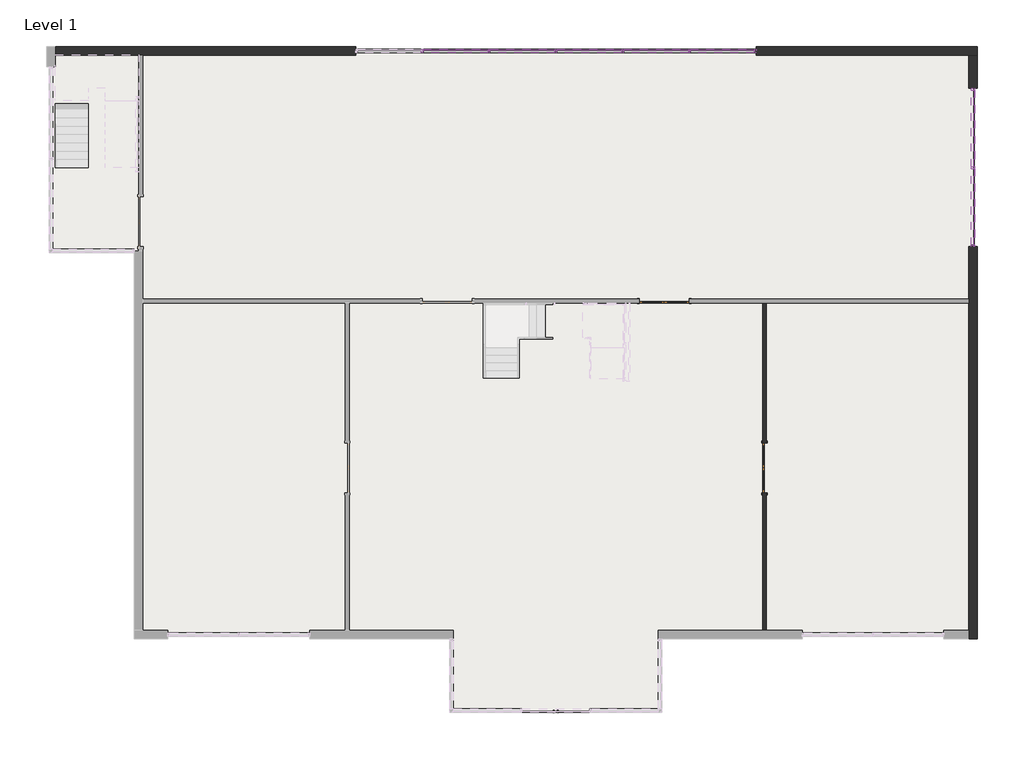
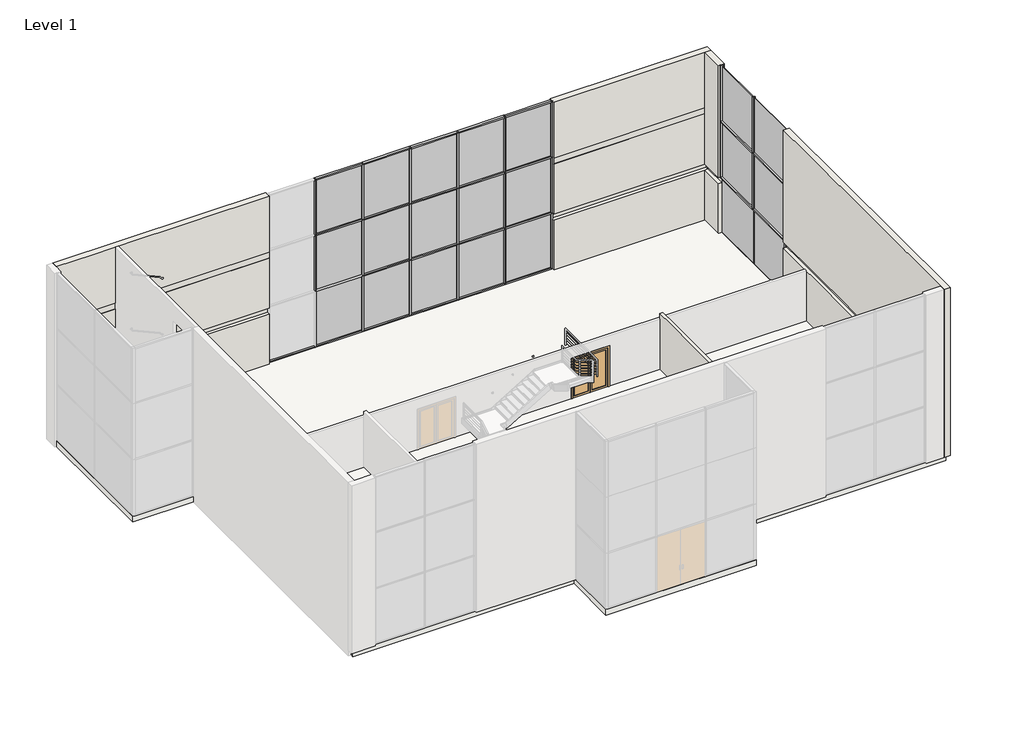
# One storey, part 3 of 7: 47 members, 21 plates, 3 walls, 2 doors, 1 slab.
"""IFC4 building model written with IfcOpenShell, lengths in millimetres."""

from ifc_helpers import new_model, si_unit, origin, place, context, project, spatial, faceted_brep, transform, mapped, element, save
from components import door_3f2f997e, member_eaba9652, member_3f395ae9, member_3b4a0b45, member_11459e8a, member_2d95a7ea, member_6c7b7f5c, member_ca91947d, system_panel_glazed_56108ee3, system_panel_glazed_d3fe5688, system_panel_glazed_d08b41f0, system_panel_glazed_c811d781, system_panel_glazed_ece86c27, system_panel_glazed_48a96432

model = new_model("IFC4")

# Units and contexts
model_context = context("Model", 3, world=origin())
ifc_project = project(units=[si_unit("LENGTHUNIT", "METRE", prefix="MILLI")], contexts=[model_context])

# Site, building, storey
site = spatial("IfcSite", under=ifc_project)
building = spatial("IfcBuilding", under=site)
storey = spatial("IfcBuildingStorey", under=building, Name="Level 1", Elevation=0.0)

# Doors
placement = place(None, origin())
door_shape = door_3f2f997e(model_context)
element("IfcDoor", 1, ObjectType="Door-Double-Glass : 72\" x 84\"", at=placement, inside=storey, context=model_context, shape_type="MappedRepresentation", body=[
    mapped(door_shape, transform((4533.463868, 513.5983604, 0.0), x_axis=(0.0, 1.0, 0.0), y_axis=(-1.0, 0.0, 0.0), z_axis=(0.0, 0.0, 1.0))),
])
element("IfcDoor", 2, ObjectType="Door-Double-Glass : 72\" x 84\"", at=placement, inside=storey, context=model_context, shape_type="MappedRepresentation", body=[
    mapped(door_shape, transform((873.482618, 6611.9796104, 0.0), x_axis=(-1.0, 0.0, 0.0), y_axis=(0.0, -1.0, 0.0), z_axis=(0.0, 0.0, 1.0))),
])

# Members
member_shape = member_eaba9652(model_context)
element("IfcMember", 3, ObjectType="Rectangular Mullion : 2.5\" x 5\" rectangular", at=placement, inside=storey, context=model_context, shape_type="MappedRepresentation", body=[
    mapped(member_shape, transform((1787.8826178, 15753.5983604, 0.0), x_axis=(-1.0, 0.0, 0.0), y_axis=(0.0, 1.0, 0.0), z_axis=(0.0, 0.0, -1.0))),
])
element("IfcMember", 4, ObjectType="Rectangular Mullion : 2.5\" x 5\" rectangular", at=placement, inside=storey, context=model_context, shape_type="MappedRepresentation", body=[
    mapped(member_shape, transform((-650.5173821, 15753.5983604, 0.0), x_axis=(-1.0, 0.0, 0.0), y_axis=(0.0, 1.0, 0.0), z_axis=(0.0, 0.0, -1.0))),
])
element("IfcMember", 5, ObjectType="Rectangular Mullion : 2.5\" x 5\" rectangular", at=placement, inside=storey, context=model_context, shape_type="MappedRepresentation", body=[
    mapped(member_shape, transform((-3088.917382, 15753.5983604, 0.0), x_axis=(-1.0, 0.0, 0.0), y_axis=(0.0, 1.0, 0.0), z_axis=(0.0, 0.0, -1.0))),
])
element("IfcMember", 6, ObjectType="Rectangular Mullion : 2.5\" x 5\" rectangular", at=placement, inside=storey, context=model_context, shape_type="MappedRepresentation", body=[
    mapped(member_shape, transform((-5527.3173819, 15753.5983604, 0.0), x_axis=(-1.0, 0.0, 0.0), y_axis=(0.0, 1.0, 0.0), z_axis=(0.0, 0.0, -1.0))),
])
element("IfcMember", 7, ObjectType="Rectangular Mullion : 2.5\" x 5\" rectangular", at=placement, inside=storey, context=model_context, shape_type="MappedRepresentation", body=[
    mapped(member_shape, transform((1787.8826178, 15753.5983604, 3048.0), x_axis=(-1.0, 0.0, 0.0), y_axis=(0.0, 1.0, 0.0), z_axis=(0.0, 0.0, -1.0))),
])
element("IfcMember", 8, ObjectType="Rectangular Mullion : 2.5\" x 5\" rectangular", at=placement, inside=storey, context=model_context, shape_type="MappedRepresentation", body=[
    mapped(member_shape, transform((-650.5173821, 15753.5983604, 3048.0), x_axis=(-1.0, 0.0, 0.0), y_axis=(0.0, 1.0, 0.0), z_axis=(0.0, 0.0, -1.0))),
])
element("IfcMember", 9, ObjectType="Rectangular Mullion : 2.5\" x 5\" rectangular", at=placement, inside=storey, context=model_context, shape_type="MappedRepresentation", body=[
    mapped(member_shape, transform((-3088.917382, 15753.5983604, 3048.0), x_axis=(-1.0, 0.0, 0.0), y_axis=(0.0, 1.0, 0.0), z_axis=(0.0, 0.0, -1.0))),
])
element("IfcMember", 10, ObjectType="Rectangular Mullion : 2.5\" x 5\" rectangular", at=placement, inside=storey, context=model_context, shape_type="MappedRepresentation", body=[
    mapped(member_shape, transform((-5527.3173819, 15753.5983604, 3048.0), x_axis=(-1.0, 0.0, 0.0), y_axis=(0.0, 1.0, 0.0), z_axis=(0.0, 0.0, -1.0))),
])
element("IfcMember", 11, ObjectType="Rectangular Mullion : 2.5\" x 5\" rectangular", at=placement, inside=storey, context=model_context, shape_type="MappedRepresentation", body=[
    mapped(member_shape, transform((-7965.7173818, 15753.5983604, 3048.0), x_axis=(-1.0, 0.0, 0.0), y_axis=(0.0, 1.0, 0.0), z_axis=(0.0, 0.0, -1.0))),
])
element("IfcMember", 12, ObjectType="Rectangular Mullion : 2.5\" x 5\" rectangular", at=placement, inside=storey, context=model_context, shape_type="MappedRepresentation", body=[
    mapped(member_shape, transform((12151.082618, 11486.3983604, 3048.0), x_axis=(0.0, 1.0, 0.0), y_axis=(1.0, 0.0, 0.0), z_axis=(0.0, 0.0, -1.0))),
])
element("IfcMember", 13, ObjectType="Rectangular Mullion : 2.5\" x 5\" rectangular", at=placement, inside=storey, context=model_context, shape_type="MappedRepresentation", body=[
    mapped(member_shape, transform((1787.8826178, 15753.5983604, 6096.0), x_axis=(-1.0, 0.0, 0.0), y_axis=(0.0, 1.0, 0.0), z_axis=(0.0, 0.0, -1.0))),
])
element("IfcMember", 14, ObjectType="Rectangular Mullion : 2.5\" x 5\" rectangular", at=placement, inside=storey, context=model_context, shape_type="MappedRepresentation", body=[
    mapped(member_shape, transform((-650.5173821, 15753.5983604, 6096.0), x_axis=(-1.0, 0.0, 0.0), y_axis=(0.0, 1.0, 0.0), z_axis=(0.0, 0.0, -1.0))),
])
element("IfcMember", 15, ObjectType="Rectangular Mullion : 2.5\" x 5\" rectangular", at=placement, inside=storey, context=model_context, shape_type="MappedRepresentation", body=[
    mapped(member_shape, transform((-3088.917382, 15753.5983604, 6096.0), x_axis=(-1.0, 0.0, 0.0), y_axis=(0.0, 1.0, 0.0), z_axis=(0.0, 0.0, -1.0))),
])
element("IfcMember", 16, ObjectType="Rectangular Mullion : 2.5\" x 5\" rectangular", at=placement, inside=storey, context=model_context, shape_type="MappedRepresentation", body=[
    mapped(member_shape, transform((-5527.3173819, 15753.5983604, 6096.0), x_axis=(-1.0, 0.0, 0.0), y_axis=(0.0, 1.0, 0.0), z_axis=(0.0, 0.0, -1.0))),
])
element("IfcMember", 17, ObjectType="Rectangular Mullion : 2.5\" x 5\" rectangular", at=placement, inside=storey, context=model_context, shape_type="MappedRepresentation", body=[
    mapped(member_shape, transform((-7965.7173818, 15753.5983604, 6096.0), x_axis=(-1.0, 0.0, 0.0), y_axis=(0.0, 1.0, 0.0), z_axis=(0.0, 0.0, -1.0))),
])
element("IfcMember", 18, ObjectType="Rectangular Mullion : 2.5\" x 5\" rectangular", at=placement, inside=storey, context=model_context, shape_type="MappedRepresentation", body=[
    mapped(member_shape, transform((12151.082618, 11486.3983604, 6096.0), x_axis=(0.0, 1.0, 0.0), y_axis=(1.0, 0.0, 0.0), z_axis=(0.0, 0.0, -1.0))),
])
member_2_shape = member_3f395ae9(model_context)
element("IfcMember", 19, ObjectType="Rectangular Mullion : 2.5\" x 5\" rectangular", at=placement, inside=storey, context=model_context, shape_type="MappedRepresentation", body=[
    mapped(member_2_shape, transform((4226.282618, 15753.5983604, 9144.0), x_axis=(1.0, 0.0, 0.0), y_axis=(0.0, 1.0, 0.0), z_axis=(0.0, 0.0, 1.0))),
])
element("IfcMember", 20, ObjectType="Rectangular Mullion : 2.5\" x 5\" rectangular", at=placement, inside=storey, context=model_context, shape_type="MappedRepresentation", body=[
    mapped(member_2_shape, transform((12151.082618, 14381.9983604, 3048.0), x_axis=(0.0, 1.0, 0.0), y_axis=(1.0, 0.0, 0.0), z_axis=(0.0, 0.0, -1.0))),
])
element("IfcMember", 21, ObjectType="Rectangular Mullion : 2.5\" x 5\" rectangular", at=placement, inside=storey, context=model_context, shape_type="MappedRepresentation", body=[
    mapped(member_2_shape, transform((12151.082618, 14381.9983604, 6096.0), x_axis=(0.0, 1.0, 0.0), y_axis=(1.0, 0.0, 0.0), z_axis=(0.0, 0.0, -1.0))),
])
element("IfcMember", 22, ObjectType="Rectangular Mullion : 2.5\" x 5\" rectangular", at=placement, inside=storey, context=model_context, shape_type="MappedRepresentation", body=[
    mapped(member_2_shape, transform((4226.282618, 15753.5983604, 3048.0), x_axis=(1.0, 0.0, 0.0), y_axis=(0.0, 1.0, 0.0), z_axis=(0.0, 0.0, 1.0))),
])
element("IfcMember", 23, ObjectType="Rectangular Mullion : 2.5\" x 5\" rectangular", at=placement, inside=storey, context=model_context, shape_type="MappedRepresentation", body=[
    mapped(member_2_shape, transform((12151.082618, 8590.7983604, 3048.0), x_axis=(0.0, -1.0, 0.0), y_axis=(1.0, 0.0, 0.0), z_axis=(0.0, 0.0, 1.0))),
])
element("IfcMember", 24, ObjectType="Rectangular Mullion : 2.5\" x 5\" rectangular", at=placement, inside=storey, context=model_context, shape_type="MappedRepresentation", body=[
    mapped(member_2_shape, transform((4226.282618, 15753.5983604, 6096.0), x_axis=(1.0, 0.0, 0.0), y_axis=(0.0, 1.0, 0.0), z_axis=(0.0, 0.0, 1.0))),
])
element("IfcMember", 25, ObjectType="Rectangular Mullion : 2.5\" x 5\" rectangular", at=placement, inside=storey, context=model_context, shape_type="MappedRepresentation", body=[
    mapped(member_2_shape, transform((12151.082618, 8590.7983604, 6096.0), x_axis=(0.0, -1.0, 0.0), y_axis=(1.0, 0.0, 0.0), z_axis=(0.0, 0.0, 1.0))),
])
member_3_shape = member_3b4a0b45(model_context)
element("IfcMember", 26, ObjectType="Rectangular Mullion : 2.5\" x 5\" rectangular", at=placement, inside=storey, context=model_context, shape_type="MappedRepresentation", body=[
    mapped(member_3_shape, transform((12151.082618, 11454.6483604, 3048.0), x_axis=(0.0, 0.0, 1.0), y_axis=(1.0, 0.0, 0.0), z_axis=(0.0, 1.0, 0.0))),
])
element("IfcMember", 27, ObjectType="Rectangular Mullion : 2.5\" x 5\" rectangular", at=placement, inside=storey, context=model_context, shape_type="MappedRepresentation", body=[
    mapped(member_3_shape, transform((12151.082618, 14318.4983604, 3048.0), x_axis=(0.0, 0.0, 1.0), y_axis=(1.0, 0.0, 0.0), z_axis=(0.0, 1.0, 0.0))),
])
element("IfcMember", 28, ObjectType="Rectangular Mullion : 2.5\" x 5\" rectangular", at=placement, inside=storey, context=model_context, shape_type="MappedRepresentation", body=[
    mapped(member_3_shape, transform((12151.082618, 11454.6483604, 6096.0), x_axis=(0.0, 0.0, 1.0), y_axis=(1.0, 0.0, 0.0), z_axis=(0.0, 1.0, 0.0))),
])
element("IfcMember", 29, ObjectType="Rectangular Mullion : 2.5\" x 5\" rectangular", at=placement, inside=storey, context=model_context, shape_type="MappedRepresentation", body=[
    mapped(member_3_shape, transform((12151.082618, 14318.4983604, 6096.0), x_axis=(0.0, 0.0, 1.0), y_axis=(1.0, 0.0, 0.0), z_axis=(0.0, 1.0, 0.0))),
])
member_4_shape = member_11459e8a(model_context)
element("IfcMember", 30, ObjectType="Rectangular Mullion : 2.5\" x 5\" rectangular", at=placement, inside=storey, context=model_context, shape_type="MappedRepresentation", body=[
    mapped(member_4_shape, transform((1819.6326178, 15753.5983604, 9144.0), x_axis=(0.0, 0.0, 1.0), y_axis=(0.0, 1.0, 0.0), z_axis=(-1.0, 0.0, 0.0))),
])
element("IfcMember", 31, ObjectType="Rectangular Mullion : 2.5\" x 5\" rectangular", at=placement, inside=storey, context=model_context, shape_type="MappedRepresentation", body=[
    mapped(member_4_shape, transform((4162.782618, 15753.5983604, 0.0), x_axis=(0.0, 0.0, -1.0), y_axis=(0.0, 1.0, 0.0), z_axis=(1.0, 0.0, 0.0))),
])
element("IfcMember", 32, ObjectType="Rectangular Mullion : 2.5\" x 5\" rectangular", at=placement, inside=storey, context=model_context, shape_type="MappedRepresentation", body=[
    mapped(member_4_shape, transform((-7997.4673818, 15753.5983604, 0.0), x_axis=(0.0, 0.0, -1.0), y_axis=(0.0, 1.0, 0.0), z_axis=(1.0, 0.0, 0.0))),
])
member_5_shape = member_2d95a7ea(model_context)
element("IfcMember", 33, ObjectType="Rectangular Mullion : 2.5\" x 5\" rectangular", at=placement, inside=storey, context=model_context, shape_type="MappedRepresentation", body=[
    mapped(member_5_shape, transform((1819.6326178, 15753.5983604, 3048.0), x_axis=(0.0, 0.0, 1.0), y_axis=(0.0, 1.0, 0.0), z_axis=(-1.0, 0.0, 0.0))),
])
element("IfcMember", 34, ObjectType="Rectangular Mullion : 2.5\" x 5\" rectangular", at=placement, inside=storey, context=model_context, shape_type="MappedRepresentation", body=[
    mapped(member_5_shape, transform((1819.6326178, 15753.5983604, 6096.0), x_axis=(0.0, 0.0, 1.0), y_axis=(0.0, 1.0, 0.0), z_axis=(-1.0, 0.0, 0.0))),
])
member_6_shape = member_6c7b7f5c(model_context)
element("IfcMember", 35, ObjectType="Rectangular Mullion : 2.5\" x 5\" rectangular", at=placement, inside=storey, context=model_context, shape_type="MappedRepresentation", body=[
    mapped(member_6_shape, transform((-618.7673821, 15753.5983604, 3048.0), x_axis=(0.0, 0.0, 1.0), y_axis=(0.0, 1.0, 0.0), z_axis=(-1.0, 0.0, 0.0))),
])
element("IfcMember", 36, ObjectType="Rectangular Mullion : 2.5\" x 5\" rectangular", at=placement, inside=storey, context=model_context, shape_type="MappedRepresentation", body=[
    mapped(member_6_shape, transform((-3057.167382, 15753.5983604, 3048.0), x_axis=(0.0, 0.0, 1.0), y_axis=(0.0, 1.0, 0.0), z_axis=(-1.0, 0.0, 0.0))),
])
element("IfcMember", 37, ObjectType="Rectangular Mullion : 2.5\" x 5\" rectangular", at=placement, inside=storey, context=model_context, shape_type="MappedRepresentation", body=[
    mapped(member_6_shape, transform((-5495.5673819, 15753.5983604, 3048.0), x_axis=(0.0, 0.0, 1.0), y_axis=(0.0, 1.0, 0.0), z_axis=(-1.0, 0.0, 0.0))),
])
element("IfcMember", 38, ObjectType="Rectangular Mullion : 2.5\" x 5\" rectangular", at=placement, inside=storey, context=model_context, shape_type="MappedRepresentation", body=[
    mapped(member_6_shape, transform((-618.7673821, 15753.5983604, 6096.0), x_axis=(0.0, 0.0, 1.0), y_axis=(0.0, 1.0, 0.0), z_axis=(-1.0, 0.0, 0.0))),
])
element("IfcMember", 39, ObjectType="Rectangular Mullion : 2.5\" x 5\" rectangular", at=placement, inside=storey, context=model_context, shape_type="MappedRepresentation", body=[
    mapped(member_6_shape, transform((-3057.167382, 15753.5983604, 6096.0), x_axis=(0.0, 0.0, 1.0), y_axis=(0.0, 1.0, 0.0), z_axis=(-1.0, 0.0, 0.0))),
])
element("IfcMember", 40, ObjectType="Rectangular Mullion : 2.5\" x 5\" rectangular", at=placement, inside=storey, context=model_context, shape_type="MappedRepresentation", body=[
    mapped(member_6_shape, transform((-5495.5673819, 15753.5983604, 6096.0), x_axis=(0.0, 0.0, 1.0), y_axis=(0.0, 1.0, 0.0), z_axis=(-1.0, 0.0, 0.0))),
])
element("IfcMember", 41, ObjectType="Rectangular Mullion : 2.5\" x 5\" rectangular", at=placement, inside=storey, context=model_context, shape_type="MappedRepresentation", body=[
    mapped(member_6_shape, transform((-7933.9673818, 15753.5983604, 6096.0), x_axis=(0.0, 0.0, 1.0), y_axis=(0.0, 1.0, 0.0), z_axis=(-1.0, 0.0, 0.0))),
])
member_7_shape = member_ca91947d(model_context)
element("IfcMember", 42, ObjectType="Rectangular Mullion : 2.5\" x 5\" rectangular", at=placement, inside=storey, context=model_context, shape_type="MappedRepresentation", body=[
    mapped(member_7_shape, transform((1756.1326178, 15753.5983604, 0.0), x_axis=(0.0, 0.0, -1.0), y_axis=(0.0, 1.0, 0.0), z_axis=(1.0, 0.0, 0.0))),
])
element("IfcMember", 43, ObjectType="Rectangular Mullion : 2.5\" x 5\" rectangular", at=placement, inside=storey, context=model_context, shape_type="MappedRepresentation", body=[
    mapped(member_7_shape, transform((-682.2673821, 15753.5983604, 0.0), x_axis=(0.0, 0.0, -1.0), y_axis=(0.0, 1.0, 0.0), z_axis=(1.0, 0.0, 0.0))),
])
element("IfcMember", 44, ObjectType="Rectangular Mullion : 2.5\" x 5\" rectangular", at=placement, inside=storey, context=model_context, shape_type="MappedRepresentation", body=[
    mapped(member_7_shape, transform((-3120.667382, 15753.5983604, 0.0), x_axis=(0.0, 0.0, -1.0), y_axis=(0.0, 1.0, 0.0), z_axis=(1.0, 0.0, 0.0))),
])
element("IfcMember", 45, ObjectType="Rectangular Mullion : 2.5\" x 5\" rectangular", at=placement, inside=storey, context=model_context, shape_type="MappedRepresentation", body=[
    mapped(member_7_shape, transform((-5559.0673819, 15753.5983604, 0.0), x_axis=(0.0, 0.0, -1.0), y_axis=(0.0, 1.0, 0.0), z_axis=(1.0, 0.0, 0.0))),
])
element("IfcMember", 46, ObjectType="Rectangular Mullion : 2.5\" x 5\" rectangular", at=placement, inside=storey, context=model_context, shape_type="MappedRepresentation", body=[
    mapped(member_7_shape, transform((-618.7673821, 15753.5983604, 9144.0), x_axis=(0.0, 0.0, 1.0), y_axis=(0.0, 1.0, 0.0), z_axis=(-1.0, 0.0, 0.0))),
])
element("IfcMember", 47, ObjectType="Rectangular Mullion : 2.5\" x 5\" rectangular", at=placement, inside=storey, context=model_context, shape_type="MappedRepresentation", body=[
    mapped(member_7_shape, transform((-3057.167382, 15753.5983604, 9144.0), x_axis=(0.0, 0.0, 1.0), y_axis=(0.0, 1.0, 0.0), z_axis=(-1.0, 0.0, 0.0))),
])
element("IfcMember", 48, ObjectType="Rectangular Mullion : 2.5\" x 5\" rectangular", at=placement, inside=storey, context=model_context, shape_type="MappedRepresentation", body=[
    mapped(member_7_shape, transform((-5495.5673819, 15753.5983604, 9144.0), x_axis=(0.0, 0.0, 1.0), y_axis=(0.0, 1.0, 0.0), z_axis=(-1.0, 0.0, 0.0))),
])
element("IfcMember", 49, ObjectType="Rectangular Mullion : 2.5\" x 5\" rectangular", at=placement, inside=storey, context=model_context, shape_type="MappedRepresentation", body=[
    mapped(member_7_shape, transform((-7933.9673818, 15753.5983604, 9144.0), x_axis=(0.0, 0.0, 1.0), y_axis=(0.0, 1.0, 0.0), z_axis=(-1.0, 0.0, 0.0))),
])

# Plates
system_panel_glazed_shape = system_panel_glazed_56108ee3(model_context)
element("IfcPlate", 50, ObjectType="System Panel : Glazed", at=placement, inside=storey, context=model_context, shape_type="MappedRepresentation", body=[
    mapped(system_panel_glazed_shape, transform((12151.082618, 10054.4733604, 3079.75), x_axis=(0.0, 1.0, 0.0), y_axis=(-1.0, 0.0, 0.0), z_axis=(0.0, 0.0, 1.0))),
])
element("IfcPlate", 51, ObjectType="System Panel : Glazed", at=placement, inside=storey, context=model_context, shape_type="MappedRepresentation", body=[
    mapped(system_panel_glazed_shape, transform((12151.082618, 12918.3233604, 3079.75), x_axis=(0.0, 1.0, 0.0), y_axis=(-1.0, 0.0, 0.0), z_axis=(0.0, 0.0, 1.0))),
])
system_panel_glazed_2_shape = system_panel_glazed_d3fe5688(model_context)
element("IfcPlate", 52, ObjectType="System Panel : Glazed", at=placement, inside=storey, context=model_context, shape_type="MappedRepresentation", body=[
    mapped(system_panel_glazed_2_shape, transform((12151.082618, 10054.4733604, 63.5), x_axis=(0.0, 1.0, 0.0), y_axis=(-1.0, 0.0, 0.0), z_axis=(0.0, 0.0, 1.0))),
])
element("IfcPlate", 53, ObjectType="System Panel : Glazed", at=placement, inside=storey, context=model_context, shape_type="MappedRepresentation", body=[
    mapped(system_panel_glazed_2_shape, transform((12151.082618, 12918.3233604, 63.5), x_axis=(0.0, 1.0, 0.0), y_axis=(-1.0, 0.0, 0.0), z_axis=(0.0, 0.0, 1.0))),
])
element("IfcPlate", 54, ObjectType="System Panel : Glazed", at=placement, inside=storey, context=model_context, shape_type="MappedRepresentation", body=[
    mapped(system_panel_glazed_2_shape, transform((12151.082618, 10054.4733604, 6127.75), x_axis=(0.0, 1.0, 0.0), y_axis=(-1.0, 0.0, 0.0), z_axis=(0.0, 0.0, 1.0))),
])
element("IfcPlate", 55, ObjectType="System Panel : Glazed", at=placement, inside=storey, context=model_context, shape_type="MappedRepresentation", body=[
    mapped(system_panel_glazed_2_shape, transform((12151.082618, 12918.3233604, 6127.75), x_axis=(0.0, 1.0, 0.0), y_axis=(-1.0, 0.0, 0.0), z_axis=(0.0, 0.0, 1.0))),
])
system_panel_glazed_3_shape = system_panel_glazed_d08b41f0(model_context)
element("IfcPlate", 56, ObjectType="System Panel : Glazed", at=placement, inside=storey, context=model_context, shape_type="MappedRepresentation", body=[
    mapped(system_panel_glazed_3_shape, transform((2991.2076179, 15753.5983604, 63.5), x_axis=(-1.0, 0.0, 0.0), y_axis=(0.0, -1.0, 0.0), z_axis=(0.0, 0.0, 1.0))),
])
element("IfcPlate", 57, ObjectType="System Panel : Glazed", at=placement, inside=storey, context=model_context, shape_type="MappedRepresentation", body=[
    mapped(system_panel_glazed_3_shape, transform((2991.2076179, 15753.5983604, 6127.75), x_axis=(-1.0, 0.0, 0.0), y_axis=(0.0, -1.0, 0.0), z_axis=(0.0, 0.0, 1.0))),
])
system_panel_glazed_4_shape = system_panel_glazed_c811d781(model_context)
element("IfcPlate", 58, ObjectType="System Panel : Glazed", at=placement, inside=storey, context=model_context, shape_type="MappedRepresentation", body=[
    mapped(system_panel_glazed_4_shape, transform((568.6826179, 15753.5983604, 63.5), x_axis=(-1.0, 0.0, 0.0), y_axis=(0.0, -1.0, 0.0), z_axis=(0.0, 0.0, 1.0))),
])
element("IfcPlate", 59, ObjectType="System Panel : Glazed", at=placement, inside=storey, context=model_context, shape_type="MappedRepresentation", body=[
    mapped(system_panel_glazed_4_shape, transform((-1869.717382, 15753.5983604, 63.5), x_axis=(-1.0, 0.0, 0.0), y_axis=(0.0, -1.0, 0.0), z_axis=(0.0, 0.0, 1.0))),
])
element("IfcPlate", 60, ObjectType="System Panel : Glazed", at=placement, inside=storey, context=model_context, shape_type="MappedRepresentation", body=[
    mapped(system_panel_glazed_4_shape, transform((-4308.1173819, 15753.5983604, 63.5), x_axis=(-1.0, 0.0, 0.0), y_axis=(0.0, -1.0, 0.0), z_axis=(0.0, 0.0, 1.0))),
])
element("IfcPlate", 61, ObjectType="System Panel : Glazed", at=placement, inside=storey, context=model_context, shape_type="MappedRepresentation", body=[
    mapped(system_panel_glazed_4_shape, transform((-6746.5173818, 15753.5983604, 63.5), x_axis=(-1.0, 0.0, 0.0), y_axis=(0.0, -1.0, 0.0), z_axis=(0.0, 0.0, 1.0))),
])
element("IfcPlate", 62, ObjectType="System Panel : Glazed", at=placement, inside=storey, context=model_context, shape_type="MappedRepresentation", body=[
    mapped(system_panel_glazed_4_shape, transform((568.6826179, 15753.5983604, 6127.75), x_axis=(-1.0, 0.0, 0.0), y_axis=(0.0, -1.0, 0.0), z_axis=(0.0, 0.0, 1.0))),
])
element("IfcPlate", 63, ObjectType="System Panel : Glazed", at=placement, inside=storey, context=model_context, shape_type="MappedRepresentation", body=[
    mapped(system_panel_glazed_4_shape, transform((-1869.717382, 15753.5983604, 6127.75), x_axis=(-1.0, 0.0, 0.0), y_axis=(0.0, -1.0, 0.0), z_axis=(0.0, 0.0, 1.0))),
])
element("IfcPlate", 64, ObjectType="System Panel : Glazed", at=placement, inside=storey, context=model_context, shape_type="MappedRepresentation", body=[
    mapped(system_panel_glazed_4_shape, transform((-4308.1173819, 15753.5983604, 6127.75), x_axis=(-1.0, 0.0, 0.0), y_axis=(0.0, -1.0, 0.0), z_axis=(0.0, 0.0, 1.0))),
])
element("IfcPlate", 65, ObjectType="System Panel : Glazed", at=placement, inside=storey, context=model_context, shape_type="MappedRepresentation", body=[
    mapped(system_panel_glazed_4_shape, transform((-6746.5173818, 15753.5983604, 6127.75), x_axis=(-1.0, 0.0, 0.0), y_axis=(0.0, -1.0, 0.0), z_axis=(0.0, 0.0, 1.0))),
])
system_panel_glazed_5_shape = system_panel_glazed_ece86c27(model_context)
element("IfcPlate", 66, ObjectType="System Panel : Glazed", at=placement, inside=storey, context=model_context, shape_type="MappedRepresentation", body=[
    mapped(system_panel_glazed_5_shape, transform((2991.2076179, 15753.5983604, 3079.75), x_axis=(-1.0, 0.0, 0.0), y_axis=(0.0, -1.0, 0.0), z_axis=(0.0, 0.0, 1.0))),
])
system_panel_glazed_6_shape = system_panel_glazed_48a96432(model_context)
element("IfcPlate", 67, ObjectType="System Panel : Glazed", at=placement, inside=storey, context=model_context, shape_type="MappedRepresentation", body=[
    mapped(system_panel_glazed_6_shape, transform((568.6826179, 15753.5983604, 3079.75), x_axis=(-1.0, 0.0, 0.0), y_axis=(0.0, -1.0, 0.0), z_axis=(0.0, 0.0, 1.0))),
])
element("IfcPlate", 68, ObjectType="System Panel : Glazed", at=placement, inside=storey, context=model_context, shape_type="MappedRepresentation", body=[
    mapped(system_panel_glazed_6_shape, transform((-1869.717382, 15753.5983604, 3079.75), x_axis=(-1.0, 0.0, 0.0), y_axis=(0.0, -1.0, 0.0), z_axis=(0.0, 0.0, 1.0))),
])
element("IfcPlate", 69, ObjectType="System Panel : Glazed", at=placement, inside=storey, context=model_context, shape_type="MappedRepresentation", body=[
    mapped(system_panel_glazed_6_shape, transform((-4308.1173819, 15753.5983604, 3079.75), x_axis=(-1.0, 0.0, 0.0), y_axis=(0.0, -1.0, 0.0), z_axis=(0.0, 0.0, 1.0))),
])
element("IfcPlate", 70, ObjectType="System Panel : Glazed", at=placement, inside=storey, context=model_context, shape_type="MappedRepresentation", body=[
    mapped(system_panel_glazed_6_shape, transform((-6746.5173818, 15753.5983604, 3079.75), x_axis=(-1.0, 0.0, 0.0), y_axis=(0.0, -1.0, 0.0), z_axis=(0.0, 0.0, 1.0))),
])

# Slab
element("IfcSlab", 71, ObjectType="Generic - 12\"", at=placement, inside=storey, context=model_context, shape_type="Brep", body=[
    faceted_brep([(12160.607618, 15763.1233604, -304.8), (12160.607618, -5591.9266396, -304.8), (784.582618, -5591.9266396, -304.8), (784.582618, -8420.8516396, -304.8), (-6962.417382, -8420.8516396, -304.8), (-6962.417382, -5591.9266396, -304.8), (-18338.442382, -5591.9266396, -304.8), (-18338.442382, -5426.8266396, -304.8), (-18338.442382, 8374.8983604, -304.8), (-18484.492382, 8374.8983604, -304.8), (-21595.992382, 8374.8983604, -304.8), (-21595.992382, 15185.2733604, -304.8), (-21589.642382, 15185.2733604, -304.8), (-21589.642382, 15763.1233604, -304.8), (12160.607618, 15763.1233604, 0.0), (-21589.642382, 15763.1233604, 0.0), (-21589.642382, 15185.2733604, 0.0), (-21595.992382, 15185.2733604, 0.0), (-21595.992382, 8374.8983604, 0.0), (-18484.492382, 8374.8983604, 0.0), (-18338.442382, 8374.8983604, 0.0), (-18338.442382, -5426.8266396, 0.0), (-18338.442382, -5591.9266396, 0.0), (-6962.417382, -5591.9266396, 0.0), (-6962.417382, -8420.8516396, 0.0), (784.582618, -8420.8516396, 0.0), (784.582618, -5591.9266396, 0.0), (12160.607618, -5591.9266396, 0.0)], [[[0, 1, 2, 3, 4, 5, 6, 7, 8, 9, 10, 11, 12, 13]], [[14, 15, 16, 17, 18, 19, 20, 21, 22, 23, 24, 25, 26, 27]], [[1, 0, 14, 27]], [[2, 1, 27, 26]], [[3, 2, 26, 25]], [[4, 3, 25, 24]], [[5, 4, 24, 23]], [[6, 5, 23, 22]], [[8, 7, 6, 22, 21, 20]], [[10, 9, 8, 20, 19, 18]], [[11, 10, 18, 17]], [[0, 13, 15, 14]], [[12, 11, 17, 16]], [[13, 12, 16, 15]]]),
])

# Walls
element("IfcWall", 72, ObjectType="Exterior - EIFS on Mtl. Stud", at=placement, inside=storey, context=model_context, shape_type="Brep", body=[
    faceted_brep([(12306.657618, 15598.0233604, 0.0), (12306.657618, 15598.0233604, 9144.0), (11995.507618, 15598.0233604, 9144.0), (4226.282618, 15598.0233604, 9144.0), (4226.282618, 15598.0233604, 6096.0), (12008.207618, 15598.0233604, 6096.0), (12008.207618, 15598.0233604, 5772.15), (4226.282618, 15598.0233604, 5772.15), (4226.282618, 15598.0233604, 3048.0), (11995.507618, 15598.0233604, 3048.0), (12160.607618, 15598.0233604, 3048.0), (12160.607618, 15598.0233604, 2724.15), (11995.507618, 15598.0233604, 2724.15), (4226.282618, 15598.0233604, 2724.15), (4226.282618, 15598.0233604, 0.0), (11995.507618, 15598.0233604, 0.0), (12306.657618, 15909.1733604, 9144.0), (12306.657618, 15909.1733604, 0.0), (4226.282618, 15909.1733604, 0.0), (4226.282618, 15909.1733604, 9144.0), (4226.282618, 15763.1233604, 2724.15), (4226.282618, 15763.1233604, 3048.0), (4226.282618, 15610.7233604, 5772.15), (4226.282618, 15610.7233604, 6096.0), (12160.607618, 15763.1233604, 2724.15), (12160.607618, 15763.1233604, 3048.0), (12008.207618, 15610.7233604, 5772.15), (12008.207618, 15610.7233604, 6096.0)], [[[0, 1, 2, 3, 4, 5, 6, 7, 8, 9, 10, 11, 12, 13, 14, 15]], [[16, 17, 18, 19]], [[17, 0, 15, 14, 18]], [[1, 16, 19, 3, 2]], [[1, 0, 17, 16]], [[19, 18, 14, 13, 20, 21, 8, 7, 22, 23, 4, 3]], [[11, 24, 20, 13, 12]], [[25, 10, 9, 8, 21]], [[25, 24, 11, 10]], [[24, 25, 21, 20]], [[26, 22, 7, 6]], [[23, 27, 5, 4]], [[27, 26, 6, 5]], [[26, 27, 23, 22]]]),
    faceted_brep([(-21376.917382, 15598.0233604, 0.0), (-18328.917382, 15598.0233604, 0.0), (-18173.342382, 15598.0233604, 0.0), (-10404.117382, 15598.0233604, 0.0), (-10404.117382, 15598.0233604, 2724.15), (-18328.917382, 15598.0233604, 2724.15), (-21376.917382, 15598.0233604, 2724.15), (-10404.117382, 15598.0233604, 9144.0), (-18173.342382, 15598.0233604, 9144.0), (-18328.917382, 15598.0233604, 9144.0), (-19541.767382, 15598.0233604, 9144.0), (-21376.917382, 15598.0233604, 9144.0), (-21376.917382, 15598.0233604, 6096.0), (-18328.917382, 15598.0233604, 6096.0), (-10404.117382, 15598.0233604, 6096.0), (-21376.917382, 15598.0233604, 3048.0), (-18328.917382, 15598.0233604, 3048.0), (-10404.117382, 15598.0233604, 3048.0), (-10404.117382, 15598.0233604, 5772.15), (-18328.917382, 15598.0233604, 5772.15), (-21376.917382, 15598.0233604, 5772.15), (-10404.117382, 15909.1733604, 0.0), (-21376.917382, 15909.1733604, 0.0), (-21376.917382, 15909.1733604, 9144.0), (-10404.117382, 15909.1733604, 9144.0), (-10404.117382, 15610.7233604, 6096.0), (-10404.117382, 15610.7233604, 5772.15), (-10404.117382, 15763.1233604, 3048.0), (-10404.117382, 15763.1233604, 2724.15), (-21376.917382, 15763.1233604, 2724.15), (-21376.917382, 15763.1233604, 3048.0), (-21376.917382, 15610.7233604, 5772.15), (-21376.917382, 15610.7233604, 6096.0)], [[[0, 1, 2, 3, 4, 5, 6]], [[7, 8, 9, 10, 11, 12, 13, 14]], [[15, 16, 17, 18, 19, 20]], [[21, 22, 23, 24]], [[3, 2, 1, 0, 22, 21]], [[11, 10, 9, 8, 7, 24, 23]], [[21, 24, 7, 14, 25, 26, 18, 17, 27, 28, 4, 3]], [[6, 5, 4, 28, 29]], [[16, 15, 30, 27, 17]], [[28, 27, 30, 29]], [[11, 23, 22, 0, 6, 29, 30, 15, 20, 31, 32, 12]], [[26, 31, 20, 19, 18]], [[32, 25, 14, 13, 12]], [[31, 26, 25, 32]]]),
])
element("IfcWall", 73, ObjectType="Exterior - EIFS on Mtl. Stud", at=placement, inside=storey, context=model_context, shape_type="Brep", body=[
    faceted_brep([(11995.507618, -5737.9766396, 0.0), (11995.507618, -5737.9766396, 9144.0), (11995.507618, -5426.8266396, 9144.0), (11995.507618, 6539.7483604, 9144.0), (11995.507618, 6679.4483604, 9144.0), (11995.507618, 8590.7983604, 9144.0), (11995.507618, 8590.7983604, 3048.0), (11995.507618, 2869.4483604, 3048.0), (11995.507618, 2729.7483604, 3048.0), (11995.507618, -5426.8266396, 3048.0), (11995.507618, -5591.9266396, 3048.0), (11995.507618, -5591.9266396, 2774.95), (11995.507618, -5591.9266396, 2724.15), (11995.507618, 8590.7983604, 2724.15), (11995.507618, 8590.7983604, 0.0), (11995.507618, 6679.4483604, 0.0), (11995.507618, 6539.7483604, 0.0), (11995.507618, -5426.8266396, 0.0), (12306.657618, -5737.9766396, 9144.0), (12306.657618, -5737.9766396, 0.0), (12306.657618, 8590.7983604, 0.0), (12306.657618, 8590.7983604, 9144.0), (12160.607618, -5591.9266396, 2724.15), (12160.607618, 8590.7983604, 2724.15), (12160.607618, -5591.9266396, 3048.0), (12160.607618, 8590.7983604, 3048.0)], [[[0, 1, 2, 3, 4, 5, 6, 7, 8, 9, 10, 11, 12, 13, 14, 15, 16, 17]], [[18, 19, 20, 21]], [[19, 0, 17, 16, 15, 14, 20]], [[1, 18, 21, 5, 4, 3, 2]], [[1, 0, 19, 18]], [[12, 22, 23, 13]], [[24, 10, 9, 8, 7, 6, 25]], [[22, 24, 25, 23]], [[24, 22, 12, 11, 10]], [[21, 20, 14, 13, 23, 25, 6, 5]]]),
    faceted_brep([(11995.507618, 15598.0233604, 0.0), (11995.507618, 14381.9983604, 0.0), (11995.507618, 14381.9983604, 2724.15), (11995.507618, 15598.0233604, 2724.15), (11995.507618, 14381.9983604, 9144.0), (11995.507618, 15598.0233604, 9144.0), (11995.507618, 15598.0233604, 3048.0), (11995.507618, 14381.9983604, 3048.0), (12306.657618, 15598.0233604, 0.0), (12306.657618, 15598.0233604, 9144.0), (12306.657618, 14381.9983604, 9144.0), (12306.657618, 14381.9983604, 0.0), (12160.607618, 15598.0233604, 2724.15), (12160.607618, 15598.0233604, 2774.95), (12160.607618, 15598.0233604, 3048.0), (12160.607618, 14381.9983604, 2724.15), (12160.607618, 14381.9983604, 3048.0)], [[[0, 1, 2, 3]], [[4, 5, 6, 7]], [[8, 9, 10, 11]], [[0, 8, 11, 1]], [[9, 5, 4, 10]], [[5, 9, 8, 0, 3, 12, 13, 14, 6]], [[15, 12, 3, 2]], [[14, 16, 7, 6]], [[12, 15, 16, 14, 13]], [[11, 10, 4, 7, 16, 15, 2, 1]]]),
])
element("IfcWall", 74, ObjectType="Interior - 5 1/2\" Partition (1-hr)", at=placement, inside=storey, context=model_context, shape_type="Brep", body=[
    faceted_brep([(4461.232618, 6539.7483604, 0.0), (4461.232618, 1427.9983604, 0.0), (4461.232618, 1427.9983604, 2133.6), (4461.232618, -400.8016396, 2133.6), (4461.232618, -400.8016396, 0.0), (4461.232618, -5426.8266396, 0.0), (4461.232618, -5426.8266396, 3048.0), (4461.232618, -400.8016396, 3048.0), (4461.232618, 1427.9983604, 3048.0), (4461.232618, 3783.8483604, 3048.0), (4461.232618, 5612.6483604, 3048.0), (4461.232618, 6539.7483604, 3048.0), (4600.932618, 1427.9983604, 2133.6), (4600.932618, 1427.9983604, 0.0), (4600.932618, 6539.7483604, 0.0), (4600.932618, 6539.7483604, 3048.0), (4600.932618, 5612.6483604, 3048.0), (4600.932618, 3783.8483604, 3048.0), (4600.932618, 1427.9983604, 3048.0), (4600.932618, -400.8016396, 3048.0), (4600.932618, -5426.8266396, 3048.0), (4600.932618, -5426.8266396, 0.0), (4600.932618, -400.8016396, 0.0), (4600.932618, -400.8016396, 2133.6)], [[[0, 1, 2, 3, 4, 5, 6, 7, 8, 9, 10, 11]], [[12, 13, 14, 15, 16, 17, 18, 19, 20, 21, 22, 23]], [[22, 21, 5, 4]], [[14, 13, 1, 0]], [[11, 10, 9, 8, 7, 6, 20, 19, 18, 17, 16, 15]], [[6, 5, 21, 20]], [[0, 11, 15, 14]], [[2, 1, 13, 12]], [[3, 2, 12, 23]], [[4, 3, 23, 22]]]),
])

save(model, "model.ifc")
